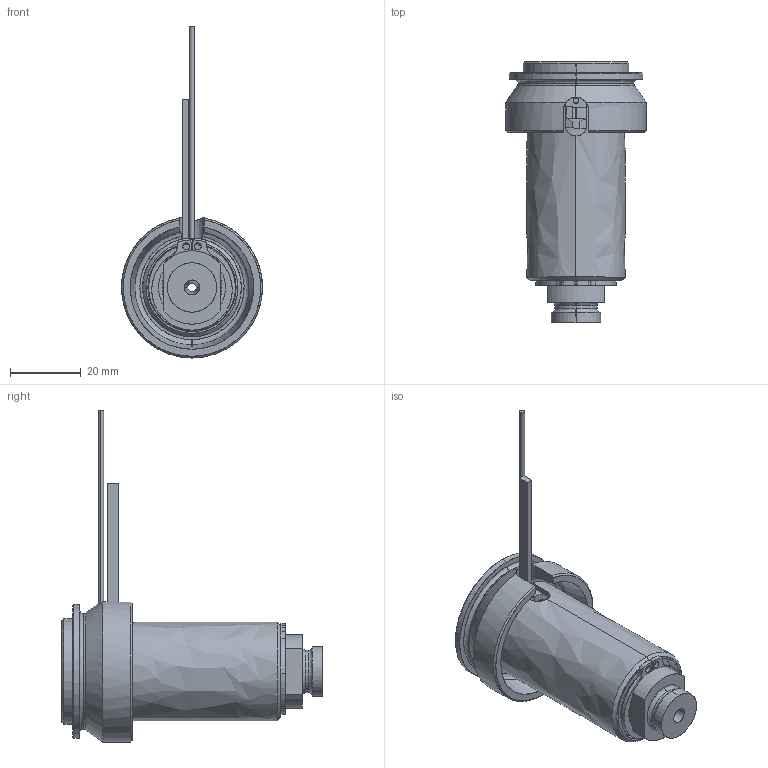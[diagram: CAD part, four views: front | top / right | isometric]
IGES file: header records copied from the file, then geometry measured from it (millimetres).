
Start section: SolidWorks IGES file using analytic representation for surfaces
Global section: file name: C:\Documents and Settings\ws-20\Desktop\TEMPORANEA\UGBE4001-M-A-5 [Ød-2.5 P-0 ØC-10].IGS; native system: SolidWorks 2012; preprocessor: SolidWorks 2012; author: ws-20; date: 120306.140432; units: millimetre
Bounding box: 40 x 74.25 x 94.15 mm (x, y, z)
Surface area: 24189.6 mm2 (no closed solid volume)
Topology: 0 solids, 0 shells, 107 faces, 1843 edges, 1843 vertices
Faces by surface type: revolution 60, bspline 47
